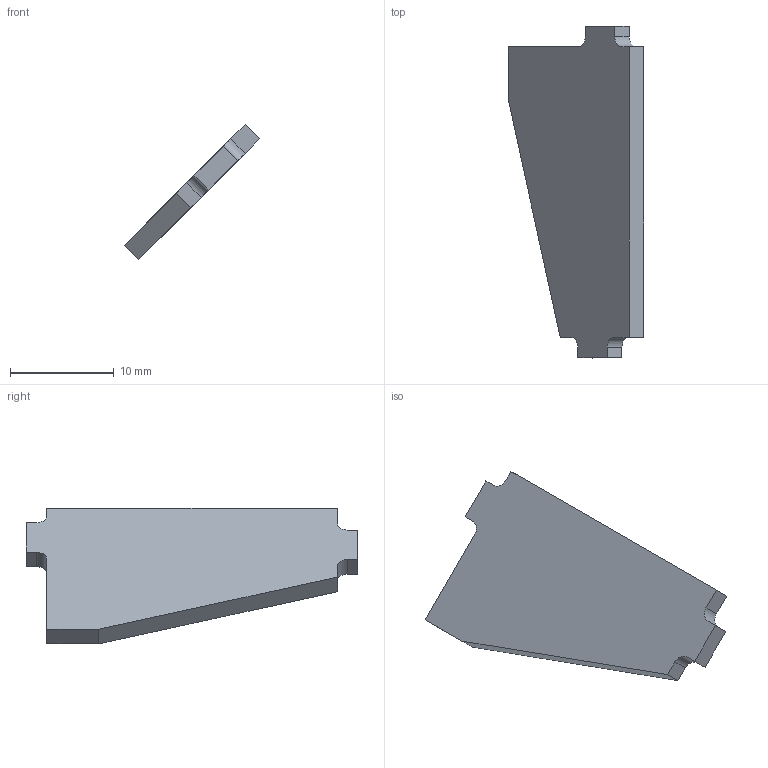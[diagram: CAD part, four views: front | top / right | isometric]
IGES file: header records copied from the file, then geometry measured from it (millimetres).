
Start section: START RECORD GO HERE.
Global section: file name: FR_10001_7 (Frame Brake).igs; native system: IBM CATIA IGES - CATIA Version 5 Release 19 ; preprocessor: CATIA Version 5 Release 19 ; author: jacqu; organization: ASUS-TUF-JACQUE; date: 20200226.092117; units: millimetre
Bounding box: 13.1 x 32 x 13.1 mm (x, y, z)
Surface area: 974.2 mm2 (no closed solid volume)
Topology: 0 solids, 0 shells, 19 faces, 102 edges, 102 vertices
Faces by surface type: plane 15, revolution 4
